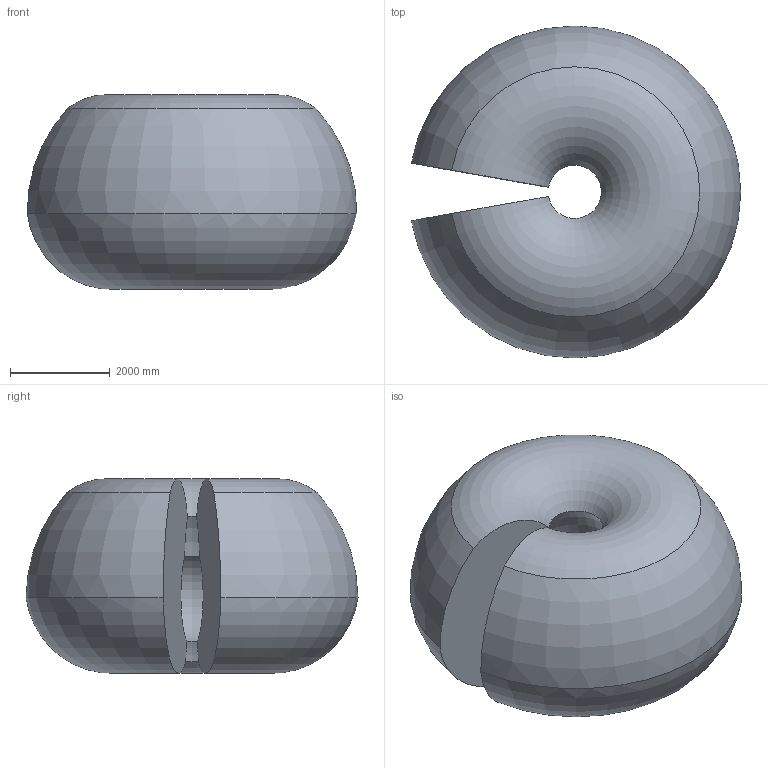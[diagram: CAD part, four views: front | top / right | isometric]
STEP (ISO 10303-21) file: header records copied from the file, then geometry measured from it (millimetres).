
FILE_DESCRIPTION (( 'STEP AP214' ), '1' );
FILE_NAME ('IRB77X0_All-330_OC_00_Working-space.step', '2026-01-28T10:08:35', ( '' ), ( '' ), 'SwSTEP 2.0', 'SolidWorks 2024', '' );
FILE_SCHEMA (( 'AUTOMOTIVE_DESIGN' ));
Length unit declared in the file: millimetre
Products named in the file (1): IRB77X0_All-330_OC_00_Working-space
Bounding box: 6596.2 x 6646.69 x 3895.16 mm (x, y, z)
Volume: 91345083453.5 mm3; surface area: 142493282.8 mm2
Topology: 1 solids, 1 shells, 8 faces, 18 edges, 12 vertices
Faces by surface type: torus 6, plane 2
Entity records: 263 total; most frequent: DIRECTION 54, CARTESIAN_POINT 39, ORIENTED_EDGE 36, AXIS2_PLACEMENT_3D 27, CIRCLE 18, EDGE_CURVE 18, VERTEX_POINT 12, ADVANCED_FACE 8
